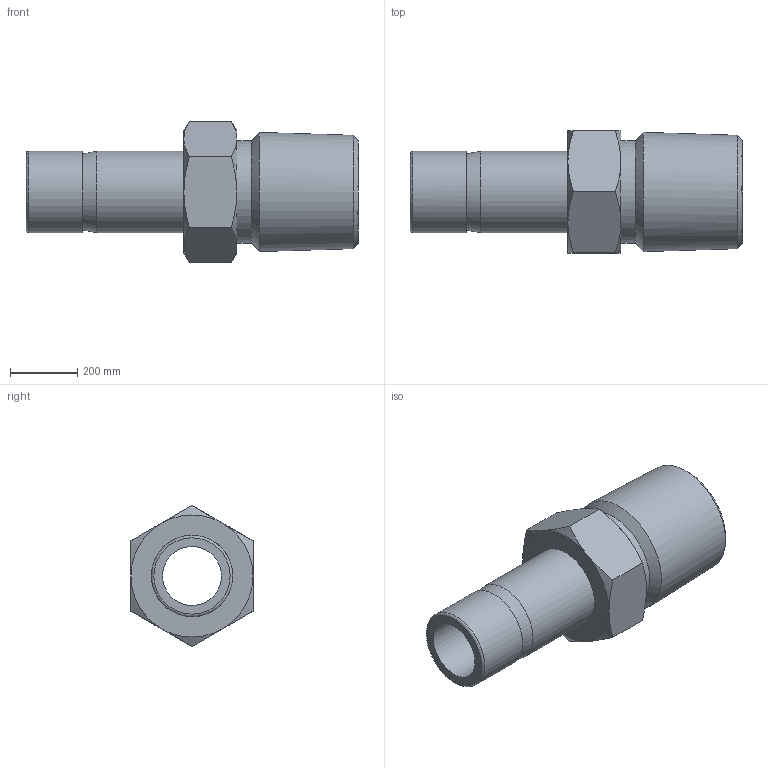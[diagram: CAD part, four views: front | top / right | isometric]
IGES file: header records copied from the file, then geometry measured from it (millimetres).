
Global section: file name: SMA-6-4N; native system: Autodesk Inventor 2016; preprocessor: unknown; author: DESIGNPC2; date: 20151221.094237; units: millimetre
Bounding box: 988.06 x 363.22 x 419.41 mm (x, y, z)
Volume: 48201004.4 mm3; surface area: 1672836.7 mm2
Topology: 1 solids, 1 shells, 33 faces, 81 edges, 53 vertices
Faces by surface type: bspline 33
